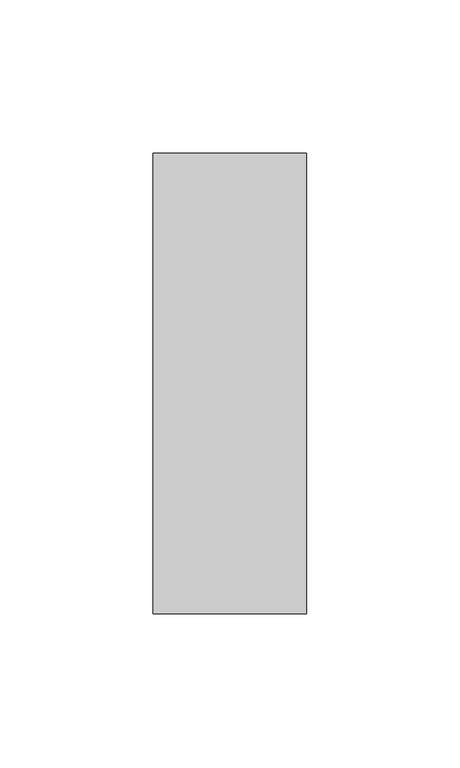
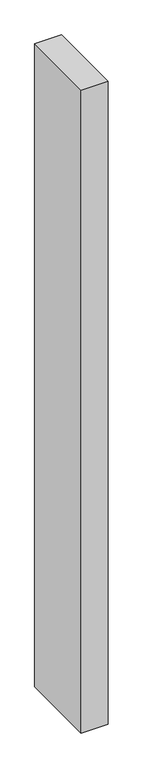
"""IFC4 building model written with IfcOpenShell, lengths in millimetres: member geometry, Прямоугольный импост : 50 x 150 мм."""

from ifc_helpers import new_model, si_unit, frame, origin, place, context, project, spatial, polyline, outline, extrude, source, transform, mapped, element, save


def member_f9f1ff50(model_context):
    return source(origin(), model_context, "Body", "SweptSolid", [
        extrude(outline(polyline([(25.0, 75.0), (25.0, -75.0), (-25.0, -75.0), (-25.0, 75.0), (25.0, 75.0)])), frame((0.0, 0.0, -1264.8601791), z_axis=(0.0, 0.0, 1.0), x_axis=(1.0, 0.0, 0.0)), (0.0, 0.0, 1.0), 1264.8601791),
    ])


if __name__ == "__main__":
    model = new_model("IFC4")
    model_context = context("Model", 3, world=origin())
    ifc_project = project(units=[si_unit("LENGTHUNIT", "METRE", prefix="MILLI")], contexts=[model_context])
    site = spatial("IfcSite", under=ifc_project)
    building = spatial("IfcBuilding", under=site)
    placement = place(None, origin())
    member_shape = member_f9f1ff50(model_context)
    element("IfcMember", 1, ObjectType="Прямоугольный импост : 50 x 150 мм", at=placement, inside=building, context=model_context, shape_type="MappedRepresentation", body=[
        mapped(member_shape, transform((0.0, 0.0, 0.0), x_axis=(1.0, 0.0, 0.0), y_axis=(0.0, 1.0, 0.0), z_axis=(0.0, 0.0, 1.0))),
    ])
    save(model, "model.ifc")
